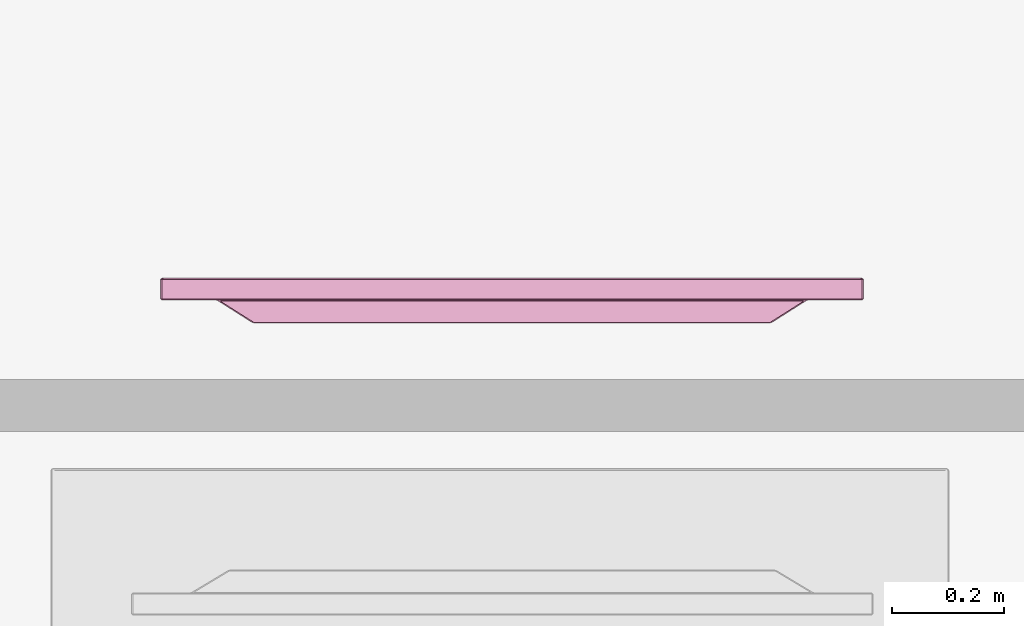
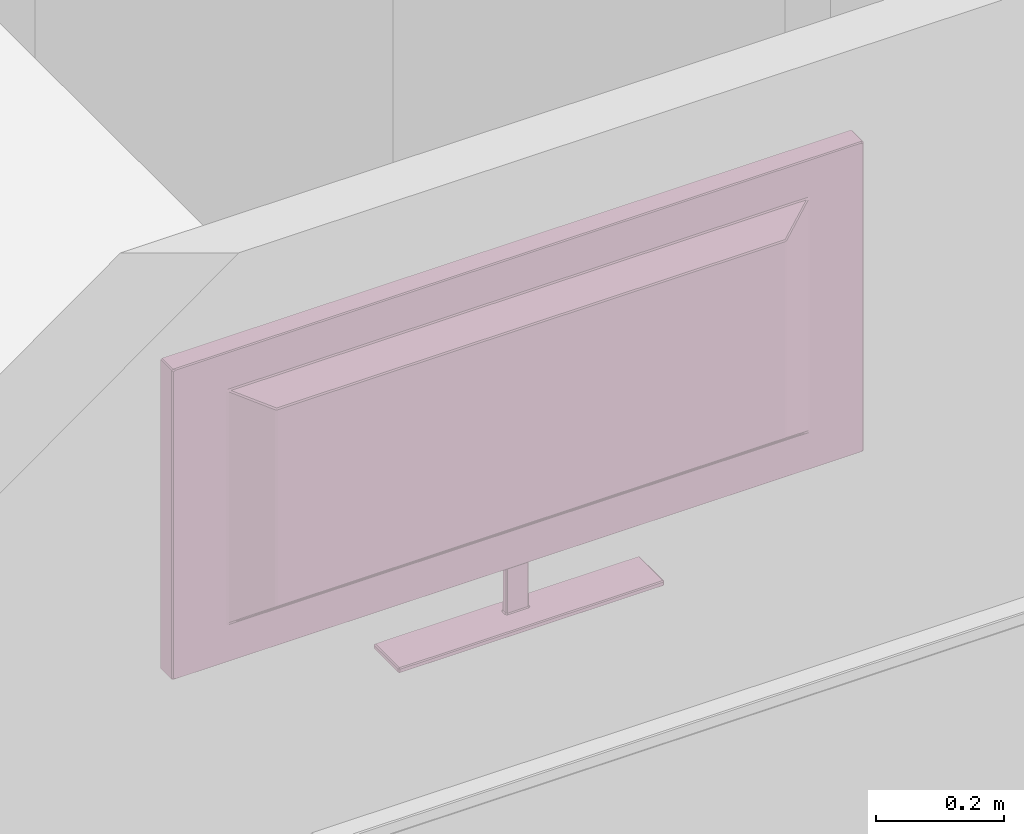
# One storey, part 10 of 25: 1 furnishing.
"""IFC2X3 building model written with IfcOpenShell, lengths in metres."""

from ifc_helpers import new_model, si_unit, direction, frame, origin_with_axes, place, context, project, spatial, faceted_brep, type_object, element, save


model = new_model("IFC2X3")

# Units and contexts
model_context = context("Model", 3, precision=1e-05, world=origin_with_axes(), true_north=direction((0.996, -0.093, 0.0)))
ifc_project = project(units=[si_unit("LENGTHUNIT", "METRE"), si_unit("AREAUNIT", "SQUARE_METRE")], contexts=[model_context])

# Site, building, storey, space
site_placement = place(None, origin_with_axes())
site = spatial("IfcSite", under=ifc_project, at=site_placement, Name="Site", CompositionType="ELEMENT")
building_placement = place(site_placement, origin_with_axes())
building = spatial("IfcBuilding", under=site, at=building_placement, Name="Building", CompositionType="ELEMENT")
storey_placement = place(building_placement, frame((0.0, 0.0, 0.0500001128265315), z_axis=(0.0, 0.0, 1.0), x_axis=(1.0, 0.0, 0.0)))
storey = spatial("IfcBuildingStorey", under=building, at=storey_placement, Name="Story 0", CompositionType="ELEMENT", Elevation=0.0499999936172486)
space_placement = place(storey_placement, frame((9.93548426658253, 0.86198421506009, 0.0), z_axis=(0.0, 0.0, 1.0), x_axis=(1.0, 0.0, 0.0)))
space = spatial("IfcSpace", under=storey, at=space_placement, Name="004", CompositionType="ELEMENT", InteriorOrExteriorSpace="INTERNAL")

# Furnishing
furniture_type = type_object("IfcFurnitureType", Name="13bb361c-64e4-458a-8c79-d63c08ade7cc")
furnishing_placement = place(space_placement, frame((-1.18565783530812, 0.140154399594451, 1.85515781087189), z_axis=(0.0, 0.0, 0.999999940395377), x_axis=(0.0, 0.999999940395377, 0.0)))
element("IfcFurnishingElement", 1, at=furnishing_placement, inside=space, type_object=furniture_type, Name="Television", ObjectType="Television", context=model_context, shape_type="Brep", body=[
    faceted_brep([(0.0288, -0.5938, -0.2046), (0.0288, 0.5938, -0.2046), (0.0288, -0.5962, -0.2027), (0.0288, -0.5962, 0.3207), (0.0288, -0.5962, -0.2027), (0.0288, -0.5938, 0.3226), (0.0288, 0.5938, 0.3226), (0.0288, -0.5938, 0.3226), (0.0288, 0.5962, 0.3207), (0.0288, -0.5938, 0.3226), (0.0288, -0.5962, -0.2027), (0.0288, 0.5962, 0.3207), (0.0288, -0.5962, -0.2027), (0.0288, 0.5938, -0.2046), (0.0288, 0.5962, 0.3207), (0.0288, 0.5938, -0.2046), (0.0288, 0.5962, -0.2027), (0.0288, 0.5962, 0.3207), (0.003, -0.6262, 0.3441), (0.003, -0.6262, -0.2467), (0.038, -0.6262, 0.3441), (0.038, -0.6262, -0.2467), (0.038, -0.6262, 0.3441), (0.003, -0.6262, -0.2467), (0.003, 0.6262, -0.2467), (0.003, 0.6262, 0.3441), (0.038, 0.6262, -0.2467), (0.038, 0.6262, 0.3441), (0.038, 0.6262, -0.2467), (0.003, 0.6262, 0.3441), (0.003, 0.6239, 0.3459), (0.003, -0.6239, 0.3459), (0.038, 0.6239, 0.3459), (0.038, -0.6239, 0.3459), (0.038, 0.6239, 0.3459), (0.003, -0.6239, 0.3459), (0.0143, -0.0216, -0.2272), (0.0062, -0.0216, -0.2272), (0.0143, -0.0216, -0.3341), (0.0062, -0.0216, -0.3341), (0.0143, -0.0216, -0.3341), (0.0062, -0.0216, -0.2272), (0.0162, 0.0171, -0.2272), (0.0162, -0.0193, -0.2272), (0.0162, 0.0171, -0.3341), (0.0162, -0.0193, -0.3341), (0.0162, 0.0171, -0.3341), (0.0162, -0.0193, -0.2272), (0.0062, 0.0195, -0.2272), (0.0143, 0.0195, -0.2272), (0.0062, 0.0195, -0.3341), (0.0143, 0.0195, -0.3341), (0.0062, 0.0195, -0.3341), (0.0143, 0.0195, -0.2272), (-0.04, 0.459, -0.1392), (-0.04, -0.459, -0.1392), (-0.04, 0.459, 0.2367), (-0.04, -0.459, 0.2367), (-0.04, 0.459, 0.2367), (-0.04, -0.459, -0.1392), (0.0043, 0.0171, -0.3341), (0.0043, -0.0193, -0.3341), (0.0043, 0.0171, -0.2272), (0.0043, -0.0193, -0.2272), (0.0043, 0.0171, -0.2272), (0.0043, -0.0193, -0.3341), (0.038, -0.6239, -0.2485), (0.003, -0.6239, -0.2485), (0.038, 0.6239, -0.2485), (0.003, 0.6239, -0.2485), (0.038, 0.6239, -0.2485), (0.003, -0.6239, -0.2485), (-0.0379, -0.2395, -0.3459), (-0.0379, 0.2374, -0.3459), (0.0382, -0.2395, -0.3459), (0.0382, 0.2374, -0.3459), (0.0382, -0.2395, -0.3459), (-0.0379, 0.2374, -0.3459), (0.0399, -0.5994, -0.21), (0.0399, -0.6225, -0.2467), (0.0399, 0.5994, -0.21), (0.0399, 0.6225, -0.2467), (0.0399, 0.5994, -0.21), (0.0399, -0.6225, -0.2467), (0.0399, -0.6032, 0.3255), (0.0399, -0.6239, 0.3416), (0.0399, -0.6032, -0.2078), (0.0399, -0.6239, -0.2407), (0.0399, -0.6032, -0.2078), (0.0399, -0.6239, 0.3416), (0.0399, 0.5999, 0.328), (0.0399, 0.6206, 0.3441), (0.0399, -0.5999, 0.328), (0.0399, -0.6206, 0.3441), (0.0399, -0.5999, 0.328), (0.0399, 0.6206, 0.3441), (0.0399, 0.6239, -0.2407), (0.0399, 0.6239, 0.3416), (0.0399, 0.6032, -0.2078), (0.0399, 0.6032, 0.3255), (0.0399, 0.6032, -0.2078), (0.0399, 0.6239, 0.3416), (0.0288, -0.5938, -0.2046), (0.0381, -0.5977, -0.2076), (0.0288, 0.5938, -0.2046), (0.0381, 0.5977, -0.2076), (0.0288, 0.5938, -0.2046), (0.0381, -0.5977, -0.2076), (0.0288, -0.5962, 0.3207), (0.0381, -0.6001, 0.3238), (0.0288, -0.5962, -0.2027), (0.0381, -0.6001, -0.2057), (0.0288, -0.5962, -0.2027), (0.0381, -0.6001, 0.3238), (0.0288, 0.5938, 0.3226), (0.0381, 0.5977, 0.3256), (0.0288, -0.5938, 0.3226), (0.0381, -0.5977, 0.3256), (0.0288, -0.5938, 0.3226), (0.0381, 0.5977, 0.3256), (0.0288, 0.5962, -0.2027), (0.0381, 0.6001, -0.2057), (0.0288, 0.5962, 0.3207), (0.0381, 0.6001, 0.3238), (0.0288, 0.5962, 0.3207), (0.0381, 0.6001, -0.2057), (0.0011, -0.5286, -0.1742), (0.0011, -0.6239, -0.2443), (0.0011, -0.5286, 0.2717), (0.0011, -0.6239, 0.3418), (0.0011, -0.5286, 0.2717), (0.0011, -0.6239, -0.2443), (0.0011, 0.5254, -0.1768), (0.0011, 0.6204, -0.2467), (0.0011, -0.5254, -0.1768), (0.0011, -0.6204, -0.2467), (0.0011, -0.5254, -0.1768), (0.0011, 0.6204, -0.2467), (0.0011, 0.5286, 0.2717), (0.0011, 0.6239, 0.3418), (0.0011, 0.5286, -0.1742), (0.0011, 0.6239, -0.2443), (0.0011, 0.5286, -0.1742), (0.0011, 0.6239, 0.3418), (0.0011, -0.5254, 0.2743), (0.0011, -0.6204, 0.3441), (0.0011, 0.5254, 0.2743), (0.0011, 0.6204, 0.3441), (0.0011, 0.5254, 0.2743), (0.0011, -0.6204, 0.3441), (-0.0389, -0.4632, 0.2374), (-0.0389, -0.4632, -0.14), (0.0, -0.5245, 0.2695), (0.0, -0.5245, -0.172), (0.0, -0.5245, 0.2695), (-0.0389, -0.4632, -0.14), (-0.0386, -0.4603, -0.1422), (-0.0386, 0.4603, -0.1422), (-0.0003, -0.5209, -0.1738), (-0.0003, 0.5209, -0.1738), (-0.0003, -0.5209, -0.1738), (-0.0386, 0.4603, -0.1422), (-0.0389, 0.4632, -0.14), (-0.0389, 0.4632, 0.2374), (0.0, 0.5245, -0.172), (0.0, 0.5245, 0.2695), (0.0, 0.5245, -0.172), (-0.0389, 0.4632, 0.2374), (-0.0386, 0.4603, 0.2397), (-0.0386, -0.4603, 0.2397), (-0.0003, 0.5209, 0.2713), (-0.0003, -0.5209, 0.2713), (-0.0003, 0.5209, 0.2713), (-0.0386, -0.4603, 0.2397), (0.04, 0.2374, -0.3441), (0.04, 0.2374, -0.3378), (0.04, -0.2395, -0.3441), (0.04, -0.2395, -0.3378), (0.04, -0.2395, -0.3441), (0.04, 0.2374, -0.3378), (-0.0379, 0.2397, -0.3441), (-0.0379, 0.2397, -0.3378), (0.0382, 0.2397, -0.3441), (0.0382, 0.2397, -0.3378), (0.0382, 0.2397, -0.3441), (-0.0379, 0.2397, -0.3378), (-0.0397, -0.2395, -0.3441), (-0.0397, -0.2395, -0.3378), (-0.0397, 0.2374, -0.3441), (-0.0397, 0.2374, -0.3378), (-0.0397, 0.2374, -0.3441), (-0.0397, -0.2395, -0.3378), (0.0382, -0.2418, -0.3441), (0.0382, -0.2418, -0.3378), (-0.0379, -0.2418, -0.3441), (-0.0379, -0.2418, -0.3378), (-0.0379, -0.2418, -0.3441), (0.0382, -0.2418, -0.3378), (-0.0374, -0.2395, -0.336), (0.0379, -0.2395, -0.336), (0.0058, -0.0239, -0.336), (0.0146, -0.0239, -0.336), (0.0058, -0.0239, -0.336), (0.0379, -0.2395, -0.336), (0.0025, 0.0192, -0.336), (-0.0379, 0.221, -0.336), (0.0025, -0.0213, -0.336), (-0.0379, -0.2231, -0.336), (0.0025, -0.0213, -0.336), (-0.0379, 0.221, -0.336), (0.0146, 0.0218, -0.336), (0.0379, 0.2374, -0.336), (0.0058, 0.0218, -0.336), (-0.0374, 0.2374, -0.336), (0.0058, 0.0218, -0.336), (0.0379, 0.2374, -0.336), (0.018, -0.0214, -0.336), (0.0382, -0.2076, -0.336), (0.018, 0.0193, -0.336), (0.0382, 0.2055, -0.336), (0.018, 0.0193, -0.336), (0.0382, -0.2076, -0.336), (0.0346, -0.6125, -0.2149), (0.0346, 0.6125, -0.2149), (0.0346, -0.6125, 0.333), (0.0346, 0.6125, 0.333), (0.0346, -0.6125, 0.333), (0.0346, 0.6125, -0.2149), (0.0399, -0.6206, 0.3441), (0.038, -0.6239, 0.3459), (0.0399, -0.6239, 0.3416), (0.038, -0.6262, 0.3441), (0.0399, -0.6239, 0.3416), (0.038, -0.6239, 0.3459), (0.0011, 0.6204, 0.3441), (0.003, 0.6239, 0.3459), (0.0011, 0.6239, 0.3418), (0.003, 0.6262, 0.3441), (0.0011, 0.6239, 0.3418), (0.003, 0.6239, 0.3459), (0.0399, 0.6239, 0.3416), (0.038, 0.6262, 0.3441), (0.0399, 0.6206, 0.3441), (0.038, 0.6239, 0.3459), (0.0399, 0.6206, 0.3441), (0.038, 0.6262, 0.3441), (0.0058, -0.0239, -0.336), (0.0062, -0.0216, -0.3341), (0.0025, -0.0213, -0.336), (0.0043, -0.0193, -0.3341), (0.0025, -0.0213, -0.336), (0.0062, -0.0216, -0.3341), (0.0146, -0.0239, -0.336), (0.018, -0.0214, -0.336), (0.0143, -0.0216, -0.3341), (0.0162, -0.0193, -0.3341), (0.0143, -0.0216, -0.3341), (0.018, -0.0214, -0.336), (0.0146, 0.0218, -0.336), (0.0143, 0.0195, -0.3341), (0.018, 0.0193, -0.336), (0.0162, 0.0171, -0.3341), (0.018, 0.0193, -0.336), (0.0143, 0.0195, -0.3341), (-0.0386, -0.4603, 0.2397), (-0.04, -0.459, 0.2367), (-0.0389, -0.4632, 0.2374), (0.0058, 0.0218, -0.336), (0.0025, 0.0192, -0.336), (0.0062, 0.0195, -0.3341), (0.0043, 0.0171, -0.3341), (0.0062, 0.0195, -0.3341), (0.0025, 0.0192, -0.336), (0.0011, -0.6204, -0.2467), (0.003, -0.6239, -0.2485), (0.0011, -0.6239, -0.2443), (0.003, -0.6262, -0.2467), (0.0011, -0.6239, -0.2443), (0.003, -0.6239, -0.2485), (0.0399, -0.6239, -0.2407), (0.038, -0.6262, -0.2467), (0.0399, -0.6225, -0.2467), (0.038, -0.6239, -0.2485), (0.0399, -0.6225, -0.2467), (0.038, -0.6262, -0.2467), (0.0382, -0.2418, -0.3441), (0.0382, -0.2395, -0.3459), (0.04, -0.2395, -0.3441), (0.0399, 0.6239, -0.2407), (0.0399, 0.6225, -0.2467), (0.038, 0.6262, -0.2467), (0.038, 0.6239, -0.2485), (0.038, 0.6262, -0.2467), (0.0399, 0.6225, -0.2467), (0.0381, -0.6001, -0.2057), (0.0399, -0.6032, -0.2078), (0.0381, -0.5977, -0.2076), (0.0399, -0.5994, -0.21), (0.0381, -0.5977, -0.2076), (0.0399, -0.6032, -0.2078), (0.0381, -0.5977, 0.3256), (0.0399, -0.5999, 0.328), (0.0381, -0.6001, 0.3238), (0.0399, -0.6032, 0.3255), (0.0381, -0.6001, 0.3238), (0.0399, -0.5999, 0.328), (0.0381, 0.6001, 0.3238), (0.0399, 0.6032, 0.3255), (0.0381, 0.5977, 0.3256), (0.0399, 0.5999, 0.328), (0.0381, 0.5977, 0.3256), (0.0399, 0.6032, 0.3255), (0.0381, 0.6001, -0.2057), (0.0381, 0.5977, -0.2076), (0.0399, 0.6032, -0.2078), (0.0399, 0.5994, -0.21), (0.0399, 0.6032, -0.2078), (0.0381, 0.5977, -0.2076), (0.0011, -0.6204, 0.3441), (0.0011, -0.6239, 0.3418), (0.003, -0.6239, 0.3459), (0.003, -0.6262, 0.3441), (0.003, -0.6239, 0.3459), (0.0011, -0.6239, 0.3418), (-0.0003, -0.5209, 0.2713), (0.0, -0.5245, 0.2695), (0.0011, -0.5254, 0.2743), (0.0011, -0.5286, 0.2717), (0.0011, -0.5254, 0.2743), (0.0, -0.5245, 0.2695), (-0.0003, -0.5209, -0.1738), (0.0011, -0.5254, -0.1768), (0.0, -0.5245, -0.172), (0.0011, -0.5286, -0.1742), (0.0, -0.5245, -0.172), (0.0011, -0.5254, -0.1768), (0.0011, 0.6204, -0.2467), (0.0011, 0.6239, -0.2443), (0.003, 0.6239, -0.2485), (0.003, 0.6262, -0.2467), (0.003, 0.6239, -0.2485), (0.0011, 0.6239, -0.2443), (-0.0003, 0.5209, -0.1738), (0.0, 0.5245, -0.172), (0.0011, 0.5254, -0.1768), (0.0011, 0.5286, -0.1742), (0.0011, 0.5254, -0.1768), (0.0, 0.5245, -0.172), (-0.0003, 0.5209, 0.2713), (0.0011, 0.5254, 0.2743), (0.0, 0.5245, 0.2695), (0.0011, 0.5286, 0.2717), (0.0, 0.5245, 0.2695), (0.0011, 0.5254, 0.2743), (-0.0386, -0.4603, -0.1422), (-0.0389, -0.4632, -0.14), (-0.04, -0.459, -0.1392), (-0.0389, 0.4632, -0.14), (-0.0386, 0.4603, -0.1422), (-0.04, 0.459, -0.1392), (-0.0386, 0.4603, 0.2397), (-0.0389, 0.4632, 0.2374), (-0.04, 0.459, 0.2367), (0.0382, 0.2397, -0.3441), (0.04, 0.2374, -0.3441), (0.0382, 0.2374, -0.3459), (-0.0397, 0.2374, -0.3441), (-0.0379, 0.2397, -0.3441), (-0.0379, 0.2374, -0.3459), (-0.0379, -0.2418, -0.3441), (-0.0397, -0.2395, -0.3441), (-0.0379, -0.2395, -0.3459), (-0.0379, -0.2231, -0.336), (-0.0397, -0.2395, -0.3378), (-0.0374, -0.2395, -0.336), (-0.0379, -0.2418, -0.3378), (-0.0374, -0.2395, -0.336), (-0.0397, -0.2395, -0.3378), (0.0382, -0.2076, -0.336), (0.0379, -0.2395, -0.336), (0.04, -0.2395, -0.3378), (0.0382, -0.2418, -0.3378), (0.04, -0.2395, -0.3378), (0.0379, -0.2395, -0.336), (-0.0379, 0.221, -0.336), (-0.0374, 0.2374, -0.336), (-0.0397, 0.2374, -0.3378), (-0.0379, 0.2397, -0.3378), (-0.0397, 0.2374, -0.3378), (-0.0374, 0.2374, -0.336), (0.0382, 0.2397, -0.3378), (0.0379, 0.2374, -0.336), (0.04, 0.2374, -0.3378), (0.0382, 0.2055, -0.336), (0.04, 0.2374, -0.3378), (0.0379, 0.2374, -0.336), (0.038, -0.6262, -0.2467), (0.003, -0.6262, -0.2467), (0.038, -0.6239, -0.2485), (0.003, -0.6239, -0.2485), (0.038, -0.6239, -0.2485), (0.003, -0.6262, -0.2467), (0.003, -0.6262, 0.3441), (0.038, -0.6262, 0.3441), (0.003, -0.6239, 0.3459), (0.038, -0.6239, 0.3459), (0.003, -0.6239, 0.3459), (0.038, -0.6262, 0.3441), (0.038, 0.6262, 0.3441), (0.003, 0.6262, 0.3441), (0.038, 0.6239, 0.3459), (0.003, 0.6239, 0.3459), (0.038, 0.6239, 0.3459), (0.003, 0.6262, 0.3441), (0.003, 0.6262, -0.2467), (0.038, 0.6262, -0.2467), (0.003, 0.6239, -0.2485), (0.038, 0.6239, -0.2485), (0.003, 0.6239, -0.2485), (0.038, 0.6262, -0.2467), (0.0062, -0.0216, -0.3341), (0.0062, -0.0216, -0.2272), (0.0043, -0.0193, -0.3341), (0.0043, -0.0193, -0.2272), (0.0043, -0.0193, -0.3341), (0.0062, -0.0216, -0.2272), (0.0143, -0.0216, -0.2272), (0.0143, -0.0216, -0.3341), (0.0162, -0.0193, -0.2272), (0.0162, -0.0193, -0.3341), (0.0162, -0.0193, -0.2272), (0.0143, -0.0216, -0.3341), (0.0162, 0.0171, -0.2272), (0.0162, 0.0171, -0.3341), (0.0143, 0.0195, -0.2272), (0.0143, 0.0195, -0.3341), (0.0143, 0.0195, -0.2272), (0.0162, 0.0171, -0.3341), (0.0062, 0.0195, -0.2272), (0.0062, 0.0195, -0.3341), (0.0043, 0.0171, -0.2272), (0.0043, 0.0171, -0.3341), (0.0043, 0.0171, -0.2272), (0.0062, 0.0195, -0.3341), (-0.04, -0.459, 0.2367), (-0.04, -0.459, -0.1392), (-0.0389, -0.4632, 0.2374), (-0.0389, -0.4632, -0.14), (-0.0389, -0.4632, 0.2374), (-0.04, -0.459, -0.1392), (-0.04, -0.459, -0.1392), (-0.04, 0.459, -0.1392), (-0.0386, -0.4603, -0.1422), (-0.0386, 0.4603, -0.1422), (-0.0386, -0.4603, -0.1422), (-0.04, 0.459, -0.1392), (-0.04, 0.459, -0.1392), (-0.04, 0.459, 0.2367), (-0.0389, 0.4632, -0.14), (-0.0389, 0.4632, 0.2374), (-0.0389, 0.4632, -0.14), (-0.04, 0.459, 0.2367), (-0.04, 0.459, 0.2367), (-0.04, -0.459, 0.2367), (-0.0386, 0.4603, 0.2397), (-0.0386, -0.4603, 0.2397), (-0.0386, 0.4603, 0.2397), (-0.04, -0.459, 0.2367), (0.0382, 0.2374, -0.3459), (-0.0379, 0.2374, -0.3459), (0.0382, 0.2397, -0.3441), (-0.0379, 0.2397, -0.3441), (0.0382, 0.2397, -0.3441), (-0.0379, 0.2374, -0.3459), (-0.0379, 0.2374, -0.3459), (-0.0379, -0.2395, -0.3459), (-0.0397, 0.2374, -0.3441), (-0.0397, -0.2395, -0.3441), (-0.0397, 0.2374, -0.3441), (-0.0379, -0.2395, -0.3459), (-0.0379, -0.2395, -0.3459), (0.0382, -0.2395, -0.3459), (-0.0379, -0.2418, -0.3441), (0.0382, -0.2418, -0.3441), (-0.0379, -0.2418, -0.3441), (0.0382, -0.2395, -0.3459), (0.0382, -0.2395, -0.3459), (0.0382, 0.2374, -0.3459), (0.04, -0.2395, -0.3441), (0.04, 0.2374, -0.3441), (0.04, -0.2395, -0.3441), (0.0382, 0.2374, -0.3459), (0.0399, 0.6225, -0.2467), (0.0399, -0.6225, -0.2467), (0.038, 0.6239, -0.2485), (0.038, -0.6239, -0.2485), (0.038, 0.6239, -0.2485), (0.0399, -0.6225, -0.2467), (0.0399, -0.6225, -0.2467), (0.0399, -0.5994, -0.21), (0.0399, -0.6239, -0.2407), (0.0399, -0.6032, -0.2078), (0.0399, -0.6239, -0.2407), (0.0399, -0.5994, -0.21), (0.0399, -0.6239, -0.2407), (0.0399, -0.6239, 0.3416), (0.038, -0.6262, -0.2467), (0.038, -0.6262, 0.3441), (0.038, -0.6262, -0.2467), (0.0399, -0.6239, 0.3416), (0.0399, -0.6239, 0.3416), (0.0399, -0.6032, 0.3255), (0.0399, -0.6206, 0.3441), (0.0399, -0.5999, 0.328), (0.0399, -0.6206, 0.3441), (0.0399, -0.6032, 0.3255), (0.0399, -0.6206, 0.3441), (0.0399, 0.6206, 0.3441), (0.038, -0.6239, 0.3459), (0.038, 0.6239, 0.3459), (0.038, -0.6239, 0.3459), (0.0399, 0.6206, 0.3441), (0.0399, 0.6206, 0.3441), (0.0399, 0.5999, 0.328), (0.0399, 0.6239, 0.3416), (0.0399, 0.6032, 0.3255), (0.0399, 0.6239, 0.3416), (0.0399, 0.5999, 0.328), (0.0399, 0.6239, 0.3416), (0.0399, 0.6239, -0.2407), (0.038, 0.6262, 0.3441), (0.038, 0.6262, -0.2467), (0.038, 0.6262, 0.3441), (0.0399, 0.6239, -0.2407), (0.0399, 0.6239, -0.2407), (0.0399, 0.6032, -0.2078), (0.0399, 0.6225, -0.2467), (0.0399, 0.5994, -0.21), (0.0399, 0.6225, -0.2467), (0.0399, 0.6032, -0.2078), (0.0381, 0.5977, -0.2076), (0.0381, -0.5977, -0.2076), (0.0399, 0.5994, -0.21), (0.0399, -0.5994, -0.21), (0.0399, 0.5994, -0.21), (0.0381, -0.5977, -0.2076), (0.0381, -0.5977, -0.2076), (0.0288, -0.5938, -0.2046), (0.0381, -0.6001, -0.2057), (0.0288, -0.5962, -0.2027), (0.0381, -0.6001, -0.2057), (0.0288, -0.5938, -0.2046), (0.0381, -0.6001, -0.2057), (0.0381, -0.6001, 0.3238), (0.0399, -0.6032, -0.2078), (0.0399, -0.6032, 0.3255), (0.0399, -0.6032, -0.2078), (0.0381, -0.6001, 0.3238), (0.0381, -0.6001, 0.3238), (0.0288, -0.5962, 0.3207), (0.0381, -0.5977, 0.3256), (0.0288, -0.5938, 0.3226), (0.0381, -0.5977, 0.3256), (0.0288, -0.5962, 0.3207), (0.0381, -0.5977, 0.3256), (0.0381, 0.5977, 0.3256), (0.0399, -0.5999, 0.328), (0.0399, 0.5999, 0.328), (0.0399, -0.5999, 0.328), (0.0381, 0.5977, 0.3256), (0.0381, 0.5977, 0.3256), (0.0288, 0.5938, 0.3226), (0.0381, 0.6001, 0.3238), (0.0288, 0.5962, 0.3207), (0.0381, 0.6001, 0.3238), (0.0288, 0.5938, 0.3226), (0.0381, 0.6001, 0.3238), (0.0381, 0.6001, -0.2057), (0.0399, 0.6032, 0.3255), (0.0399, 0.6032, -0.2078), (0.0399, 0.6032, 0.3255), (0.0381, 0.6001, -0.2057), (0.0381, 0.6001, -0.2057), (0.0288, 0.5962, -0.2027), (0.0381, 0.5977, -0.2076), (0.0288, 0.5938, -0.2046), (0.0381, 0.5977, -0.2076), (0.0288, 0.5962, -0.2027), (0.0011, -0.6239, 0.3418), (0.0011, -0.6239, -0.2443), (0.003, -0.6262, 0.3441), (0.003, -0.6262, -0.2467), (0.003, -0.6262, 0.3441), (0.0011, -0.6239, -0.2443), (0.0011, -0.6239, -0.2443), (0.0011, -0.5286, -0.1742), (0.0011, -0.6204, -0.2467), (0.0011, -0.5254, -0.1768), (0.0011, -0.6204, -0.2467), (0.0011, -0.5286, -0.1742), (0.0011, -0.5286, -0.1742), (0.0011, -0.5286, 0.2717), (0.0, -0.5245, -0.172), (0.0, -0.5245, 0.2695), (0.0, -0.5245, -0.172), (0.0011, -0.5286, 0.2717), (0.0011, -0.6204, -0.2467), (0.0011, 0.6204, -0.2467), (0.003, -0.6239, -0.2485), (0.003, 0.6239, -0.2485), (0.003, -0.6239, -0.2485), (0.0011, 0.6204, -0.2467), (0.0011, 0.6204, -0.2467), (0.0011, 0.5254, -0.1768), (0.0011, 0.6239, -0.2443), (0.0011, 0.5286, -0.1742), (0.0011, 0.6239, -0.2443), (0.0011, 0.5254, -0.1768), (0.0011, 0.5254, -0.1768), (0.0011, -0.5254, -0.1768), (-0.0003, 0.5209, -0.1738), (-0.0003, -0.5209, -0.1738), (-0.0003, 0.5209, -0.1738), (0.0011, -0.5254, -0.1768), (0.0011, 0.6239, -0.2443), (0.0011, 0.6239, 0.3418), (0.003, 0.6262, -0.2467), (0.003, 0.6262, 0.3441), (0.003, 0.6262, -0.2467), (0.0011, 0.6239, 0.3418), (0.0011, 0.6239, 0.3418), (0.0011, 0.5286, 0.2717), (0.0011, 0.6204, 0.3441), (0.0011, 0.5254, 0.2743), (0.0011, 0.6204, 0.3441), (0.0011, 0.5286, 0.2717), (0.0011, 0.5286, 0.2717), (0.0011, 0.5286, -0.1742), (0.0, 0.5245, 0.2695), (0.0, 0.5245, -0.172), (0.0, 0.5245, 0.2695), (0.0011, 0.5286, -0.1742), (0.0011, 0.6204, 0.3441), (0.0011, -0.6204, 0.3441), (0.003, 0.6239, 0.3459), (0.003, -0.6239, 0.3459), (0.003, 0.6239, 0.3459), (0.0011, -0.6204, 0.3441), (0.0011, -0.6204, 0.3441), (0.0011, -0.5254, 0.2743), (0.0011, -0.6239, 0.3418), (0.0011, -0.5286, 0.2717), (0.0011, -0.6239, 0.3418), (0.0011, -0.5254, 0.2743), (0.0011, -0.5254, 0.2743), (0.0011, 0.5254, 0.2743), (-0.0003, -0.5209, 0.2713), (-0.0003, 0.5209, 0.2713), (-0.0003, -0.5209, 0.2713), (0.0011, 0.5254, 0.2743), (0.0, -0.5245, -0.172), (-0.0389, -0.4632, -0.14), (-0.0003, -0.5209, -0.1738), (-0.0386, -0.4603, -0.1422), (-0.0003, -0.5209, -0.1738), (-0.0389, -0.4632, -0.14), (-0.0003, 0.5209, -0.1738), (-0.0386, 0.4603, -0.1422), (0.0, 0.5245, -0.172), (-0.0389, 0.4632, -0.14), (0.0, 0.5245, -0.172), (-0.0386, 0.4603, -0.1422), (0.0, 0.5245, 0.2695), (-0.0389, 0.4632, 0.2374), (-0.0003, 0.5209, 0.2713), (-0.0386, 0.4603, 0.2397), (-0.0003, 0.5209, 0.2713), (-0.0389, 0.4632, 0.2374), (-0.0003, -0.5209, 0.2713), (-0.0386, -0.4603, 0.2397), (0.0, -0.5245, 0.2695), (-0.0389, -0.4632, 0.2374), (0.0, -0.5245, 0.2695), (-0.0386, -0.4603, 0.2397), (0.04, 0.2374, -0.3378), (0.04, 0.2374, -0.3441), (0.0382, 0.2397, -0.3378), (0.0382, 0.2397, -0.3441), (0.0382, 0.2397, -0.3378), (0.04, 0.2374, -0.3441), (-0.0379, 0.2397, -0.3378), (-0.0379, 0.2397, -0.3441), (-0.0397, 0.2374, -0.3378), (-0.0397, 0.2374, -0.3441), (-0.0397, 0.2374, -0.3378), (-0.0379, 0.2397, -0.3441), (-0.0397, -0.2395, -0.3378), (-0.0397, -0.2395, -0.3441), (-0.0379, -0.2418, -0.3378), (-0.0379, -0.2418, -0.3441), (-0.0379, -0.2418, -0.3378), (-0.0397, -0.2395, -0.3441), (0.0382, -0.2418, -0.3378), (0.0382, -0.2418, -0.3441), (0.04, -0.2395, -0.3378), (0.04, -0.2395, -0.3441), (0.04, -0.2395, -0.3378), (0.0382, -0.2418, -0.3441), (0.0379, -0.2395, -0.336), (-0.0374, -0.2395, -0.336), (0.0382, -0.2418, -0.3378), (-0.0379, -0.2418, -0.3378), (0.0382, -0.2418, -0.3378), (-0.0374, -0.2395, -0.336), (-0.0374, -0.2395, -0.336), (0.0058, -0.0239, -0.336), (-0.0379, -0.2231, -0.336), (0.0025, -0.0213, -0.336), (-0.0379, -0.2231, -0.336), (0.0058, -0.0239, -0.336), (0.0058, -0.0239, -0.336), (0.0146, -0.0239, -0.336), (0.0062, -0.0216, -0.3341), (0.0143, -0.0216, -0.3341), (0.0062, -0.0216, -0.3341), (0.0146, -0.0239, -0.336), (-0.0379, -0.2231, -0.336), (-0.0379, 0.221, -0.336), (-0.0397, -0.2395, -0.3378), (-0.0397, 0.2374, -0.3378), (-0.0397, -0.2395, -0.3378), (-0.0379, 0.221, -0.336), (-0.0379, 0.221, -0.336), (0.0025, 0.0192, -0.336), (-0.0374, 0.2374, -0.336), (0.0058, 0.0218, -0.336), (-0.0374, 0.2374, -0.336), (0.0025, 0.0192, -0.336), (0.0025, 0.0192, -0.336), (0.0025, -0.0213, -0.336), (0.0043, 0.0171, -0.3341), (0.0043, -0.0193, -0.3341), (0.0043, 0.0171, -0.3341), (0.0025, -0.0213, -0.336), (-0.0374, 0.2374, -0.336), (0.0379, 0.2374, -0.336), (-0.0379, 0.2397, -0.3378), (0.0382, 0.2397, -0.3378), (-0.0379, 0.2397, -0.3378), (0.0379, 0.2374, -0.336), (0.0379, 0.2374, -0.336), (0.0146, 0.0218, -0.336), (0.0382, 0.2055, -0.336), (0.018, 0.0193, -0.336), (0.0382, 0.2055, -0.336), (0.0146, 0.0218, -0.336), (0.0146, 0.0218, -0.336), (0.0058, 0.0218, -0.336), (0.0143, 0.0195, -0.3341), (0.0062, 0.0195, -0.3341), (0.0143, 0.0195, -0.3341), (0.0058, 0.0218, -0.336), (0.0382, 0.2055, -0.336), (0.0382, -0.2076, -0.336), (0.04, 0.2374, -0.3378), (0.04, -0.2395, -0.3378), (0.04, 0.2374, -0.3378), (0.0382, -0.2076, -0.336), (0.0382, -0.2076, -0.336), (0.018, -0.0214, -0.336), (0.0379, -0.2395, -0.336), (0.0146, -0.0239, -0.336), (0.0379, -0.2395, -0.336), (0.018, -0.0214, -0.336), (0.018, -0.0214, -0.336), (0.018, 0.0193, -0.336), (0.0162, -0.0193, -0.3341), (0.0162, 0.0171, -0.3341), (0.0162, -0.0193, -0.3341), (0.018, 0.0193, -0.336)], [[[0, 1, 2]], [[3, 4, 5]], [[6, 7, 8]], [[9, 10, 11]], [[12, 13, 14]], [[15, 16, 17]], [[18, 19, 20]], [[21, 22, 23]], [[24, 25, 26]], [[27, 28, 29]], [[30, 31, 32]], [[33, 34, 35]], [[36, 37, 38]], [[39, 40, 41]], [[42, 43, 44]], [[45, 46, 47]], [[48, 49, 50]], [[51, 52, 53]], [[54, 55, 56]], [[57, 58, 59]], [[60, 61, 62]], [[63, 64, 65]], [[66, 67, 68]], [[69, 70, 71]], [[72, 73, 74]], [[75, 76, 77]], [[78, 79, 80]], [[81, 82, 83]], [[84, 85, 86]], [[87, 88, 89]], [[90, 91, 92]], [[93, 94, 95]], [[96, 97, 98]], [[99, 100, 101]], [[102, 103, 104]], [[105, 106, 107]], [[108, 109, 110]], [[111, 112, 113]], [[114, 115, 116]], [[117, 118, 119]], [[120, 121, 122]], [[123, 124, 125]], [[126, 127, 128]], [[129, 130, 131]], [[132, 133, 134]], [[135, 136, 137]], [[138, 139, 140]], [[141, 142, 143]], [[144, 145, 146]], [[147, 148, 149]], [[150, 151, 152]], [[153, 154, 155]], [[156, 157, 158]], [[159, 160, 161]], [[162, 163, 164]], [[165, 166, 167]], [[168, 169, 170]], [[171, 172, 173]], [[174, 175, 176]], [[177, 178, 179]], [[180, 181, 182]], [[183, 184, 185]], [[186, 187, 188]], [[189, 190, 191]], [[192, 193, 194]], [[195, 196, 197]], [[198, 199, 200]], [[201, 202, 203]], [[204, 205, 206]], [[207, 208, 209]], [[210, 211, 212]], [[213, 214, 215]], [[216, 217, 218]], [[219, 220, 221]], [[222, 223, 224]], [[225, 226, 227]], [[228, 229, 230]], [[231, 232, 233]], [[234, 235, 236]], [[237, 238, 239]], [[240, 241, 242]], [[243, 244, 245]], [[246, 247, 248]], [[249, 250, 251]], [[252, 253, 254]], [[255, 256, 257]], [[258, 259, 260]], [[261, 262, 263]], [[264, 265, 266]], [[267, 268, 269]], [[270, 271, 272]], [[273, 274, 275]], [[276, 277, 278]], [[279, 280, 281]], [[282, 283, 284]], [[285, 286, 287]], [[288, 289, 290]], [[291, 292, 293]], [[294, 295, 296]], [[297, 298, 299]], [[300, 301, 302]], [[303, 304, 305]], [[306, 307, 308]], [[309, 310, 311]], [[312, 313, 314]], [[315, 316, 317]], [[318, 319, 320]], [[321, 322, 323]], [[324, 325, 326]], [[327, 328, 329]], [[330, 331, 332]], [[333, 334, 335]], [[336, 337, 338]], [[339, 340, 341]], [[342, 343, 344]], [[345, 346, 347]], [[348, 349, 350]], [[351, 352, 353]], [[354, 355, 356]], [[357, 358, 359]], [[360, 361, 362]], [[363, 364, 365]], [[366, 367, 368]], [[369, 370, 371]], [[372, 373, 374]], [[375, 376, 377]], [[378, 379, 380]], [[381, 382, 383]], [[384, 385, 386]], [[387, 388, 389]], [[390, 391, 392]], [[393, 394, 395]], [[396, 397, 398]], [[399, 400, 401]], [[402, 403, 404]], [[405, 406, 407]], [[408, 409, 410]], [[411, 412, 413]], [[414, 415, 416]], [[417, 418, 419]], [[420, 421, 422]], [[423, 424, 425]], [[426, 427, 428]], [[429, 430, 431]], [[432, 433, 434]], [[435, 436, 437]], [[438, 439, 440]], [[441, 442, 443]], [[444, 445, 446]], [[447, 448, 449]], [[450, 451, 452]], [[453, 454, 455]], [[456, 457, 458]], [[459, 460, 461]], [[462, 463, 464]], [[465, 466, 467]], [[468, 469, 470]], [[471, 472, 473]], [[474, 475, 476]], [[477, 478, 479]], [[480, 481, 482]], [[483, 484, 485]], [[486, 487, 488]], [[489, 490, 491]], [[492, 493, 494]], [[495, 496, 497]], [[498, 499, 500]], [[501, 502, 503]], [[504, 505, 506]], [[507, 508, 509]], [[510, 511, 512]], [[513, 514, 515]], [[516, 517, 518]], [[519, 520, 521]], [[522, 523, 524]], [[525, 526, 527]], [[528, 529, 530]], [[531, 532, 533]], [[534, 535, 536]], [[537, 538, 539]], [[540, 541, 542]], [[543, 544, 545]], [[546, 547, 548]], [[549, 550, 551]], [[552, 553, 554]], [[555, 556, 557]], [[558, 559, 560]], [[561, 562, 563]], [[564, 565, 566]], [[567, 568, 569]], [[570, 571, 572]], [[573, 574, 575]], [[576, 577, 578]], [[579, 580, 581]], [[582, 583, 584]], [[585, 586, 587]], [[588, 589, 590]], [[591, 592, 593]], [[594, 595, 596]], [[597, 598, 599]], [[600, 601, 602]], [[603, 604, 605]], [[606, 607, 608]], [[609, 610, 611]], [[612, 613, 614]], [[615, 616, 617]], [[618, 619, 620]], [[621, 622, 623]], [[624, 625, 626]], [[627, 628, 629]], [[630, 631, 632]], [[633, 634, 635]], [[636, 637, 638]], [[639, 640, 641]], [[642, 643, 644]], [[645, 646, 647]], [[648, 649, 650]], [[651, 652, 653]], [[654, 655, 656]], [[657, 658, 659]], [[660, 661, 662]], [[663, 664, 665]], [[666, 667, 668]], [[669, 670, 671]], [[672, 673, 674]], [[675, 676, 677]], [[678, 679, 680]], [[681, 682, 683]], [[684, 685, 686]], [[687, 688, 689]], [[690, 691, 692]], [[693, 694, 695]], [[696, 697, 698]], [[699, 700, 701]], [[702, 703, 704]], [[705, 706, 707]], [[708, 709, 710]], [[711, 712, 713]], [[714, 715, 716]], [[717, 718, 719]], [[720, 721, 722]], [[723, 724, 725]], [[726, 727, 728]], [[729, 730, 731]], [[732, 733, 734]], [[735, 736, 737]], [[738, 739, 740]], [[741, 742, 743]], [[744, 745, 746]], [[747, 748, 749]], [[750, 751, 752]], [[753, 754, 755]], [[756, 757, 758]], [[759, 760, 761]], [[762, 763, 764]], [[765, 766, 767]], [[768, 769, 770]], [[771, 772, 773]], [[774, 775, 776]], [[777, 778, 779]]]),
])

save(model, "model.ifc")
